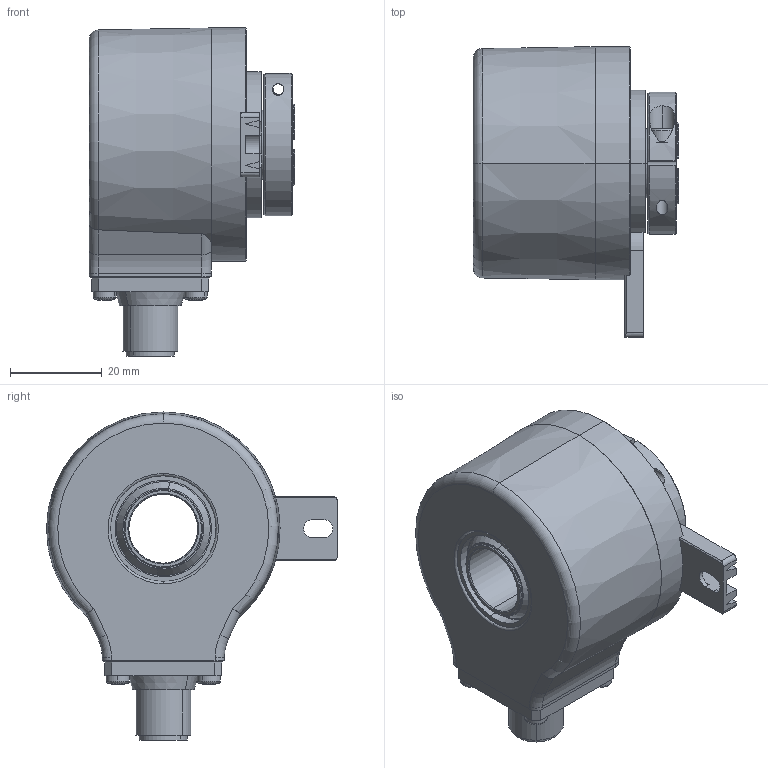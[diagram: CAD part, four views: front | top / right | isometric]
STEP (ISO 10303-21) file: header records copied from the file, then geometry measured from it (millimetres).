
FILE_DESCRIPTION (( 'STEP AP214' ), '1' );
FILE_NAME ('5020.28X2.XXXX.STEP', '2011-01-05T10:17:03', ( 'admin' ), ( 'Fritz Kübler GmbH' ), 'SwSTEP 2.0', 'SolidWorks 2009', '' );
FILE_SCHEMA (( 'AUTOMOTIVE_DESIGN' ));
Length unit declared in the file: millimetre
Products named in the file (1): 5020.28X2.XXXX
Bounding box: 44.7 x 63.3 x 71.4 mm (x, y, z)
Surface area: 19152.6 mm2 (no closed solid volume)
Topology: 0 solids, 22 shells, 297 faces, 875 edges, 578 vertices
Faces by surface type: plane 124, cylinder 99, cone 26, sphere 24, torus 20, bspline 4
Entity records: 13331 total; most frequent: CARTESIAN_POINT 2214, DIRECTION 1741, ORIENTED_EDGE 1486, EDGE_CURVE 843, AXIS2_PLACEMENT_3D 667, VERTEX_POINT 562, VECTOR 407, LINE 407
